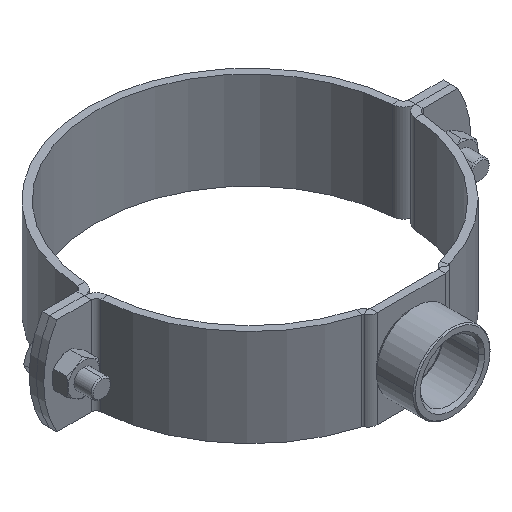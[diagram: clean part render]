
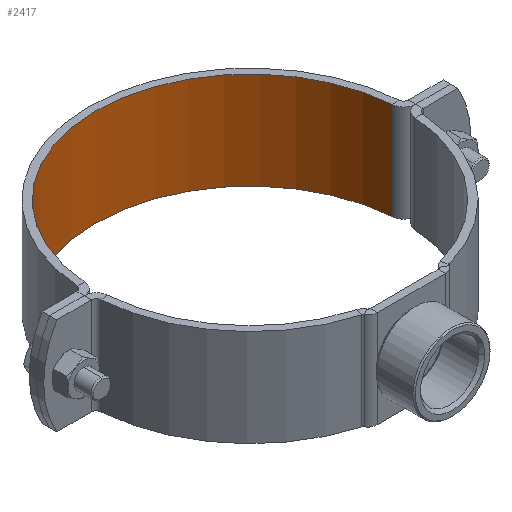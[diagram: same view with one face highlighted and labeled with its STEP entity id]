
A CAD part, isometric view. The second image highlights one B-rep face of the part: STEP entity #2417.
In plain terms, the highlighted cylindrical face has radius 63.5 mm (diameter 127 mm), a partial arc.
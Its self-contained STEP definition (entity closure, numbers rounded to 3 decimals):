
#60 = CARTESIAN_POINT ( 'NONE',  ( 0., 0., 20. ) ) ;
#131 = CARTESIAN_POINT ( 'NONE',  ( 0., 0., -20. ) ) ;
#211 = VERTEX_POINT ( 'NONE', #3368 ) ;
#221 = ORIENTED_EDGE ( 'NONE', *, *, #3224, .T. ) ;
#294 = EDGE_CURVE ( 'NONE', #2891, #451, #4573, .T. ) ;
#451 = VERTEX_POINT ( 'NONE', #2849 ) ;
#569 = AXIS2_PLACEMENT_3D ( 'NONE', #1852, #3408, #4933 ) ;
#1102 = CARTESIAN_POINT ( 'NONE',  ( -63.331, -4.635, 20. ) ) ;
#1158 = EDGE_LOOP ( 'NONE', ( #4046, #1175, #221, #2292 ) ) ;
#1175 = ORIENTED_EDGE ( 'NONE', *, *, #294, .F. ) ;
#1268 = CARTESIAN_POINT ( 'NONE',  ( 63.331, -4.635, 20. ) ) ;
#1277 = EDGE_CURVE ( 'NONE', #451, #4629, #2523, .T. ) ;
#1607 = DIRECTION ( 'NONE',  ( 0., 0., -1. ) ) ;
#1665 = EDGE_CURVE ( 'NONE', #211, #4629, #4742, .T. ) ;
#1687 = DIRECTION ( 'NONE',  ( 0., 0., 1. ) ) ;
#1852 = CARTESIAN_POINT ( 'NONE',  ( 0., 0., 20. ) ) ;
#1936 = VECTOR ( 'NONE', #2872, 1000. ) ;
#1995 = FACE_OUTER_BOUND ( 'NONE', #1158, .T. ) ;
#2292 = ORIENTED_EDGE ( 'NONE', *, *, #1665, .T. ) ;
#2301 = CARTESIAN_POINT ( 'NONE',  ( -63.331, -4.635, 20. ) ) ;
#2417 = ADVANCED_FACE ( 'NONE', ( #1995 ), #3549, .F. ) ;
#2511 = VECTOR ( 'NONE', #2694, 1000. ) ;
#2523 = CIRCLE ( 'NONE', #4192, 63.5 ) ;
#2694 = DIRECTION ( 'NONE',  ( 0., 0., -1. ) ) ;
#2849 = CARTESIAN_POINT ( 'NONE',  ( -63.331, -4.635, -20. ) ) ;
#2872 = DIRECTION ( 'NONE',  ( 0., 0., -1. ) ) ;
#2891 = VERTEX_POINT ( 'NONE', #2301 ) ;
#3187 = DIRECTION ( 'NONE',  ( -1., 0., 0. ) ) ;
#3224 = EDGE_CURVE ( 'NONE', #2891, #211, #4932, .T. ) ;
#3256 = DIRECTION ( 'NONE',  ( 1., 0., 0. ) ) ;
#3368 = CARTESIAN_POINT ( 'NONE',  ( 63.331, -4.635, 20. ) ) ;
#3408 = DIRECTION ( 'NONE',  ( 0., 0., 1. ) ) ;
#3483 = AXIS2_PLACEMENT_3D ( 'NONE', #60, #1607, #3187 ) ;
#3549 = CYLINDRICAL_SURFACE ( 'NONE', #3483, 63.5 ) ;
#4007 = CARTESIAN_POINT ( 'NONE',  ( 63.331, -4.635, -20. ) ) ;
#4046 = ORIENTED_EDGE ( 'NONE', *, *, #1277, .F. ) ;
#4192 = AXIS2_PLACEMENT_3D ( 'NONE', #131, #1687, #3256 ) ;
#4573 = LINE ( 'NONE', #1102, #2511 ) ;
#4629 = VERTEX_POINT ( 'NONE', #4007 ) ;
#4742 = LINE ( 'NONE', #1268, #1936 ) ;
#4932 = CIRCLE ( 'NONE', #569, 63.5 ) ;
#4933 = DIRECTION ( 'NONE',  ( 1., 0., 0. ) ) ;
